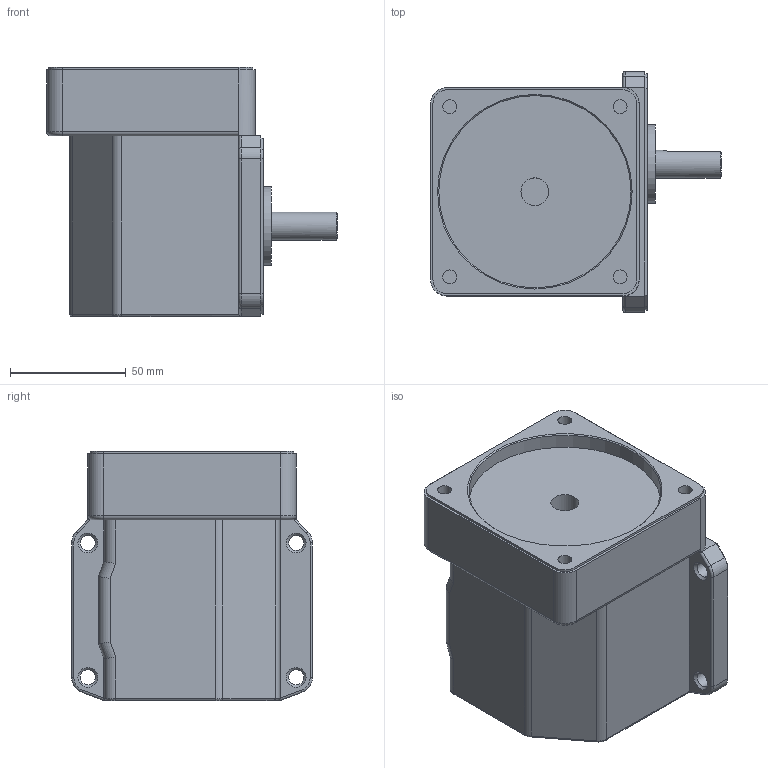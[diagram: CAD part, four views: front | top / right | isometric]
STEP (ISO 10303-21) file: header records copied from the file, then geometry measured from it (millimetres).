
FILE_DESCRIPTION((''),'2;1');
FILE_NAME('D:\작업\흐힠~\3D 모델링\SC9KB___1.stp','2015-03-31T12:07:58',('jy-jung'),(''),'Autodesk Inventor 2012','Autodesk Inventor 2012','');
FILE_SCHEMA(('AUTOMOTIVE_DESIGN { 1 0 10303 214 1 1 1 1 }'));
Length unit declared in the file: millimetre
Products named in the file (1): SC9KB_
Bounding box: 125.5 x 104 x 107.5 mm (x, y, z)
Volume: 701718.2 mm3; surface area: 59489.7 mm2
Topology: 1 solids, 1 shells, 135 faces, 329 edges, 208 vertices
Faces by surface type: cylinder 59, plane 57, cone 10, torus 9
Full cylindrical faces by diameter (mm): 6 x4, 6.5 x4, 12 x2, 34 x1, 72 x1, 83 x1
Entity records: 3928 total; most frequent: DIRECTION 708, CARTESIAN_POINT 701, ORIENTED_EDGE 612, EDGE_CURVE 306, AXIS2_PLACEMENT_3D 272, VERTEX_POINT 207, EDGE_LOOP 177, VECTOR 164
